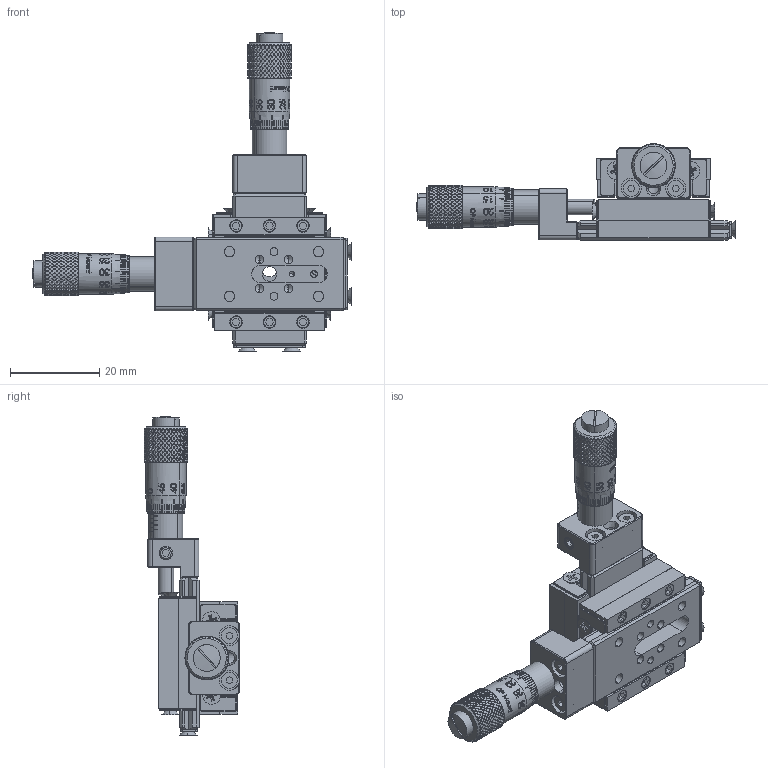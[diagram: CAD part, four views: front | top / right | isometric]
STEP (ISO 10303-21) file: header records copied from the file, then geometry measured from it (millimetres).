
FILE_DESCRIPTION (( 'STEP AP203' ), '1' );
FILE_NAME ('TCB25XY-03(STEP).STEP', '2017-11-24T05:46:18', ( '¦K¬P' ), ( '' ), 'SwSTEP 2.0', 'SolidWorks 2016', '' );
FILE_SCHEMA (( 'CONFIG_CONTROL_DESIGN' ));
Length unit declared in the file: millimetre
Products named in the file (16): ψ2-6L; TCB25-底板檔片; TCB25XY-03(STEP); M1.6x0.3PX5L; M2x0.4Px10L; TCB25-底板; M3x0.5P無沉頭x5L; TCB25-MIC®y; MER-08後管; TCB25-面板; MER-08前管; TCB25-面板檔片; M2x0.4P皿頭; TCB25-培林帶片; TCB25-03; TCB25-鋼軌
Assembly tree (33 placements, depth 3):
  TCB25XY-03(STEP)
    TCB25-03  x2
      TCB25-底板
      TCB25-MIC®y
      TCB25-面板
      TCB25-面板檔片
      TCB25-培林帶片
      TCB25-鋼軌
      TCB25-底板檔片
      M1.6x0.3PX5L
      M2x0.4Px10L
      M3x0.5P無沉頭x5L
      MER-08後管
      MER-08前管
      M2x0.4P皿頭
    ψ2-6L  x4
Bounding box: 71.52 x 21.55 x 71.52 mm (x, y, z)
Volume: 15471.9 mm3; surface area: 22230.5 mm2
Topology: 58 solids, 58 shells, 6468 faces, 18034 edges, 11860 vertices
Faces by surface type: bspline 3126, cylinder 1792, plane 1238, cone 240, sphere 72
Entity records: 229364 total; most frequent: CARTESIAN_POINT 170910, ORIENTED_EDGE 16624, EDGE_CURVE 8312, DIRECTION 5943, VERTEX_POINT 5502, EDGE_LOOP 3124, B_SPLINE_CURVE_WITH_KNOTS 3080, FACE_OUTER_BOUND 2943
